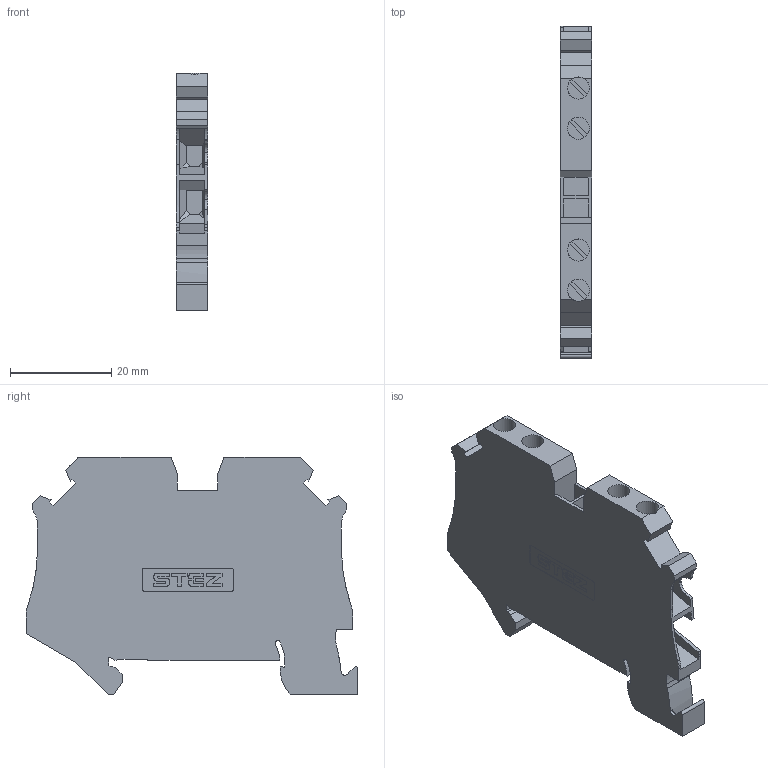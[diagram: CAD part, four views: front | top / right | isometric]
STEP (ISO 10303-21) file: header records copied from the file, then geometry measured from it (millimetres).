
FILE_DESCRIPTION(('TFLEX Exchange Step'),'2;1');
FILE_NAME('11000091_КНВ_4-4-С.stp', '2024-05-02T11:51:38+03:00',('apanin'),('Unknown organisation'),'TFLEX Exchange 2023.2','T-FLEX CAD','Unknown authorisation');
FILE_SCHEMA( ('AUTOMOTIVE_DESIGN { 1 0 10303 214 1 1 1 1 }') );
Length unit declared in the file: millimetre
Products named in the file (1): Тело_1:1
Bounding box: 6.15 x 65.4 x 46.85 mm (x, y, z)
Volume: 11913.4 mm3; surface area: 8205.3 mm2
Topology: 1 solids, 1 shells, 433 faces, 1254 edges, 832 vertices
Faces by surface type: plane 231, cylinder 202
Full cylindrical faces by diameter (mm): 4.35 x4
Entity records: 14437 total; most frequent: DIRECTION 2550, CARTESIAN_POINT 2528, ORIENTED_EDGE 2508, EDGE_CURVE 1254, AXIS2_PLACEMENT_3D 866, VERTEX_POINT 832, VECTOR 818, LINE 818
